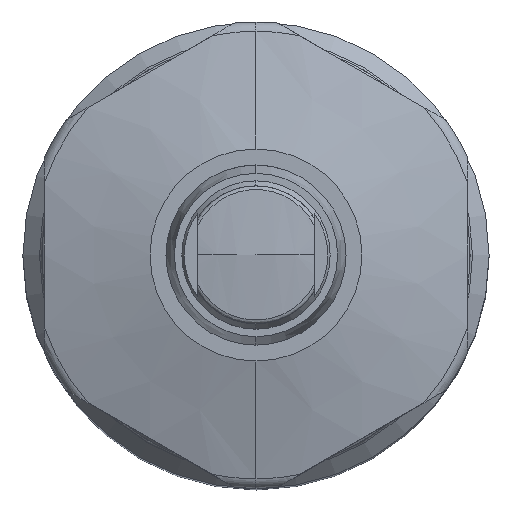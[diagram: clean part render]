
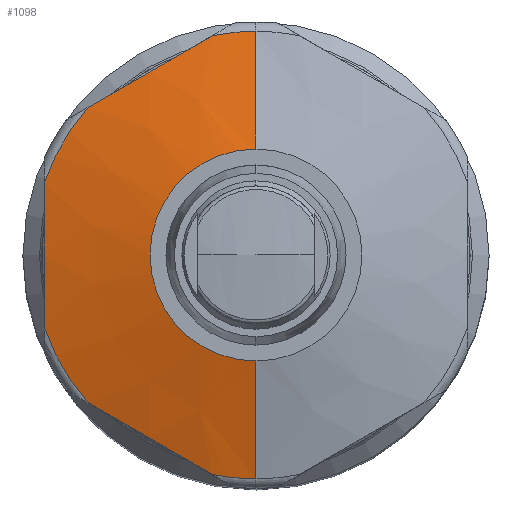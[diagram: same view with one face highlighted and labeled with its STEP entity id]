
A CAD part, top view. The second image highlights one B-rep face of the part: STEP entity #1098.
In plain terms, the highlighted conical face has half-angle 75 degrees and reference radius 11 mm.
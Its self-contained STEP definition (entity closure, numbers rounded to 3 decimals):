
#651=CONICAL_SURFACE('',#2926,11.,75.);
#682=B_SPLINE_CURVE_WITH_KNOTS('',3,(#4375,#4376,#4377,#4378),
 .UNSPECIFIED.,.F.,.F.,(4,4),(0.,1.),.UNSPECIFIED.);
#683=B_SPLINE_CURVE_WITH_KNOTS('',3,(#4382,#4383,#4384,#4385),
 .UNSPECIFIED.,.F.,.F.,(4,4),(0.,1.),.UNSPECIFIED.);
#684=B_SPLINE_CURVE_WITH_KNOTS('',3,(#4389,#4390,#4391,#4392),
 .UNSPECIFIED.,.F.,.F.,(4,4),(0.,1.),.UNSPECIFIED.);
#918=LINE('',#4371,#1002);
#919=LINE('',#4395,#1003);
#1002=VECTOR('',#3479,1.);
#1003=VECTOR('',#3488,1.);
#1098=ADVANCED_FACE('',(#1263),#651,.T.);
#1263=FACE_OUTER_BOUND('',#1392,.T.);
#1392=EDGE_LOOP('',(#1777,#1778,#1779,#1780,#1781,#1782,#1783,#1784,#1785,
#1786));
#1777=ORIENTED_EDGE('',*,*,#2462,.F.);
#1778=ORIENTED_EDGE('',*,*,#2463,.T.);
#1779=ORIENTED_EDGE('',*,*,#2464,.T.);
#1780=ORIENTED_EDGE('',*,*,#2465,.T.);
#1781=ORIENTED_EDGE('',*,*,#2466,.T.);
#1782=ORIENTED_EDGE('',*,*,#2467,.T.);
#1783=ORIENTED_EDGE('',*,*,#2468,.T.);
#1784=ORIENTED_EDGE('',*,*,#2469,.T.);
#1785=ORIENTED_EDGE('',*,*,#2470,.F.);
#1786=ORIENTED_EDGE('',*,*,#2471,.T.);
#2170=VERTEX_POINT('',#4203);
#2179=VERTEX_POINT('',#4264);
#2212=VERTEX_POINT('',#4372);
#2213=VERTEX_POINT('',#4374);
#2214=VERTEX_POINT('',#4379);
#2215=VERTEX_POINT('',#4381);
#2216=VERTEX_POINT('',#4386);
#2217=VERTEX_POINT('',#4388);
#2218=VERTEX_POINT('',#4393);
#2219=VERTEX_POINT('',#4396);
#2462=EDGE_CURVE('',#2170,#2212,#918,.T.);
#2463=EDGE_CURVE('',#2170,#2213,#2685,.T.);
#2464=EDGE_CURVE('',#2213,#2214,#682,.T.);
#2465=EDGE_CURVE('',#2214,#2215,#2686,.T.);
#2466=EDGE_CURVE('',#2215,#2216,#683,.T.);
#2467=EDGE_CURVE('',#2216,#2217,#2687,.T.);
#2468=EDGE_CURVE('',#2217,#2218,#684,.T.);
#2469=EDGE_CURVE('',#2218,#2179,#2688,.T.);
#2470=EDGE_CURVE('',#2219,#2179,#919,.T.);
#2471=EDGE_CURVE('',#2219,#2212,#2689,.T.);
#2685=CIRCLE('',#2921,10.555);
#2686=CIRCLE('',#2922,10.555);
#2687=CIRCLE('',#2923,10.555);
#2688=CIRCLE('',#2924,10.555);
#2689=CIRCLE('',#2925,5.);
#2921=AXIS2_PLACEMENT_3D('',#4373,#3480,#3481);
#2922=AXIS2_PLACEMENT_3D('',#4380,#3482,#3483);
#2923=AXIS2_PLACEMENT_3D('',#4387,#3484,#3485);
#2924=AXIS2_PLACEMENT_3D('',#4394,#3486,#3487);
#2925=AXIS2_PLACEMENT_3D('',#4397,#3489,#3490);
#2926=AXIS2_PLACEMENT_3D('',#4398,#3491,#3492);
#3479=DIRECTION('',(0.,-0.966,0.259));
#3480=DIRECTION('',(0.,0.,1.));
#3481=DIRECTION('',(0.,-1.,0.));
#3482=DIRECTION('',(0.,0.,1.));
#3483=DIRECTION('',(0.,-1.,0.));
#3484=DIRECTION('',(0.,0.,1.));
#3485=DIRECTION('',(0.,-1.,0.));
#3486=DIRECTION('',(0.,0.,1.));
#3487=DIRECTION('',(0.,-1.,0.));
#3488=DIRECTION('',(0.,-0.966,-0.259));
#3489=DIRECTION('',(0.,0.,-1.));
#3490=DIRECTION('',(0.,1.,0.));
#3491=DIRECTION('',(0.,0.,-1.));
#3492=DIRECTION('',(0.,-1.,0.));
#4203=CARTESIAN_POINT('',(0.,10.555,54.111));
#4264=CARTESIAN_POINT('',(0.,-10.555,54.111));
#4371=CARTESIAN_POINT('',(0.,11.,53.992));
#4372=CARTESIAN_POINT('',(0.,5.,55.6));
#4373=CARTESIAN_POINT('',(0.,0.,54.111));
#4374=CARTESIAN_POINT('',(-2.074,10.349,54.111));
#4375=CARTESIAN_POINT('',(-2.074,10.349,54.111));
#4376=CARTESIAN_POINT('',(-4.025,9.223,54.305));
#4377=CARTESIAN_POINT('',(-5.975,8.097,54.305));
#4378=CARTESIAN_POINT('',(-7.926,6.971,54.111));
#4379=CARTESIAN_POINT('',(-7.926,6.971,54.111));
#4380=CARTESIAN_POINT('',(0.,0.,54.111));
#4381=CARTESIAN_POINT('',(-10.,3.378,54.111));
#4382=CARTESIAN_POINT('',(-10.,3.378,54.111));
#4383=CARTESIAN_POINT('',(-10.,1.126,54.305));
#4384=CARTESIAN_POINT('',(-10.,-1.126,54.305));
#4385=CARTESIAN_POINT('',(-10.,-3.378,54.111));
#4386=CARTESIAN_POINT('',(-10.,-3.378,54.111));
#4387=CARTESIAN_POINT('',(0.,0.,54.111));
#4388=CARTESIAN_POINT('',(-7.926,-6.971,54.111));
#4389=CARTESIAN_POINT('',(-7.926,-6.971,54.111));
#4390=CARTESIAN_POINT('',(-5.975,-8.097,54.305));
#4391=CARTESIAN_POINT('',(-4.025,-9.223,54.305));
#4392=CARTESIAN_POINT('',(-2.074,-10.349,54.111));
#4393=CARTESIAN_POINT('',(-2.074,-10.349,54.111));
#4394=CARTESIAN_POINT('',(0.,0.,54.111));
#4395=CARTESIAN_POINT('',(0.,-11.,53.992));
#4396=CARTESIAN_POINT('',(0.,-5.,55.6));
#4397=CARTESIAN_POINT('',(0.,0.,55.6));
#4398=CARTESIAN_POINT('',(0.,0.,53.992));
